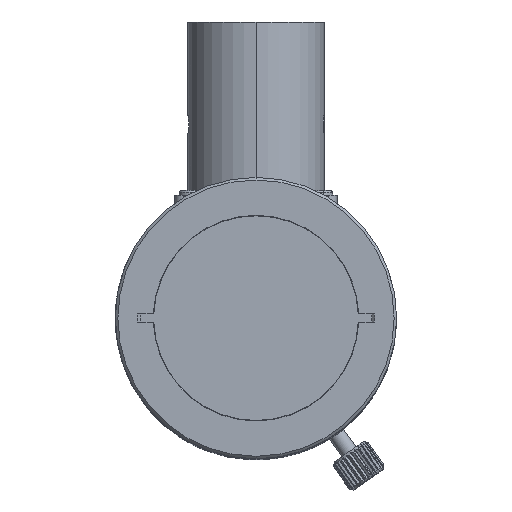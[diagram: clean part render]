
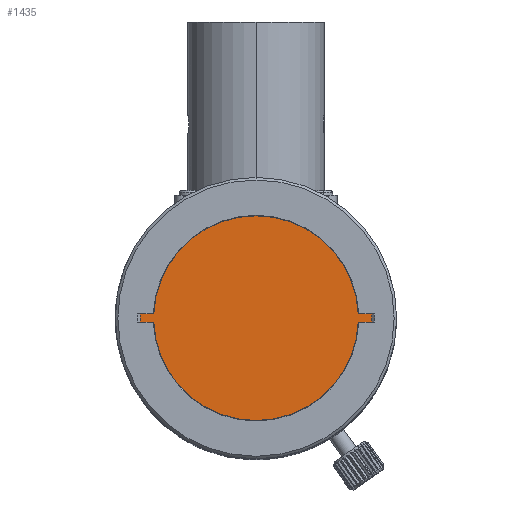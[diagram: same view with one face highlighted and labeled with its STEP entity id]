
A CAD part, top view. The second image highlights one B-rep face of the part: STEP entity #1435.
In plain terms, the highlighted planar face has unit normal (0, 0, 1).
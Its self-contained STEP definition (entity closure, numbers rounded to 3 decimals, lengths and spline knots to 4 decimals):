
#850 = EDGE_LOOP ( 'NONE', ( #2689, #2691, #2693, #2695, #2697, #2699, #2701, #2703 ) ) ;
#1435 = ADVANCED_FACE ( 'NONE', ( #7207 ), #7208, .F. ) ;
#2689 = ORIENTED_EDGE ( 'NONE', *, *, #5704, .F. ) ;
#2691 = ORIENTED_EDGE ( 'NONE', *, *, #5705, .F. ) ;
#2693 = ORIENTED_EDGE ( 'NONE', *, *, #5354, .T. ) ;
#2695 = ORIENTED_EDGE ( 'NONE', *, *, #5706, .F. ) ;
#2697 = ORIENTED_EDGE ( 'NONE', *, *, #5707, .F. ) ;
#2699 = ORIENTED_EDGE ( 'NONE', *, *, #5708, .T. ) ;
#2701 = ORIENTED_EDGE ( 'NONE', *, *, #5358, .T. ) ;
#2703 = ORIENTED_EDGE ( 'NONE', *, *, #5700, .T. ) ;
#5354 = EDGE_CURVE ( 'NONE', #6748, #6732, #13665, .T. ) ;
#5358 = EDGE_CURVE ( 'NONE', #6747, #6739, #13672, .T. ) ;
#5700 = EDGE_CURVE ( 'NONE', #6739, #6681, #22858, .T. ) ;
#5704 = EDGE_CURVE ( 'NONE', #6830, #6681, #19980, .T. ) ;
#5705 = EDGE_CURVE ( 'NONE', #6748, #6830, #22868, .T. ) ;
#5706 = EDGE_CURVE ( 'NONE', #6636, #6732, #22880, .T. ) ;
#5707 = EDGE_CURVE ( 'NONE', #6635, #6636, #19982, .T. ) ;
#5708 = EDGE_CURVE ( 'NONE', #6635, #6747, #22890, .T. ) ;
#6635 = VERTEX_POINT ( 'NONE', #28347 ) ;
#6636 = VERTEX_POINT ( 'NONE', #28348 ) ;
#6681 = VERTEX_POINT ( 'NONE', #28393 ) ;
#6732 = VERTEX_POINT ( 'NONE', #28444 ) ;
#6739 = VERTEX_POINT ( 'NONE', #28451 ) ;
#6747 = VERTEX_POINT ( 'NONE', #28459 ) ;
#6748 = VERTEX_POINT ( 'NONE', #28460 ) ;
#6830 = VERTEX_POINT ( 'NONE', #28542 ) ;
#7204 = CARTESIAN_POINT ( 'NONE',  ( 0.5512, 0.0197, 2.2638 ) ) ;
#7207 = FACE_OUTER_BOUND ( 'NONE', #850, .T. ) ;
#7208 = PLANE ( 'NONE',  #27306 ) ;
#7210 = DIRECTION ( 'NONE',  ( 0., 0., -1. ) ) ;
#7211 = DIRECTION ( 'NONE',  ( -1., 0., 0. ) ) ;
#13665 = CIRCLE ( 'NONE', #13668, 0.4724 ) ;
#13668 = AXIS2_PLACEMENT_3D ( 'NONE', #18805, #18806, #18807 ) ;
#13672 = CIRCLE ( 'NONE', #13674, 0.4724 ) ;
#13674 = AXIS2_PLACEMENT_3D ( 'NONE', #18817, #18818, #18819 ) ;
#18805 = CARTESIAN_POINT ( 'NONE',  ( 0., 0., 2.2638 ) ) ;
#18806 = DIRECTION ( 'NONE',  ( 0., 0., 1. ) ) ;
#18807 = DIRECTION ( 'NONE',  ( 0., 1., 0. ) ) ;
#18817 = CARTESIAN_POINT ( 'NONE',  ( 0., 0., 2.2638 ) ) ;
#18818 = DIRECTION ( 'NONE',  ( 0., 0., 1. ) ) ;
#18819 = DIRECTION ( 'NONE',  ( 0., 1., 0. ) ) ;
#19973 = VECTOR ( 'NONE', #22865, 39.3701 ) ;
#19978 = VECTOR ( 'NONE', #22887, 39.3701 ) ;
#19979 = AXIS2_PLACEMENT_3D ( 'NONE', #22881, #22882, #22883 ) ;
#19980 = CIRCLE ( 'NONE', #19979, 0.5354 ) ;
#19981 = VECTOR ( 'NONE', #22884, 39.3701 ) ;
#19982 = CIRCLE ( 'NONE', #19985, 0.5354 ) ;
#19983 = VECTOR ( 'NONE', #22894, 39.3701 ) ;
#19985 = AXIS2_PLACEMENT_3D ( 'NONE', #22891, #22892, #22893 ) ;
#22858 = LINE ( 'NONE', #22864, #19973 ) ;
#22864 = CARTESIAN_POINT ( 'NONE',  ( 0.5512, 0.0197, 2.2638 ) ) ;
#22865 = DIRECTION ( 'NONE',  ( -1., 0., 0. ) ) ;
#22868 = LINE ( 'NONE', #22874, #19981 ) ;
#22874 = CARTESIAN_POINT ( 'NONE',  ( 0.5512, -0.0197, 2.2638 ) ) ;
#22880 = LINE ( 'NONE', #22885, #19978 ) ;
#22881 = CARTESIAN_POINT ( 'NONE',  ( 0., 0., 2.2638 ) ) ;
#22882 = DIRECTION ( 'NONE',  ( 0., 0., -1. ) ) ;
#22883 = DIRECTION ( 'NONE',  ( 0., 1., 0. ) ) ;
#22884 = DIRECTION ( 'NONE',  ( -1., 0., 0. ) ) ;
#22885 = CARTESIAN_POINT ( 'NONE',  ( 0.5512, -0.0197, 2.2638 ) ) ;
#22886 = CARTESIAN_POINT ( 'NONE',  ( 0.5512, 0.0197, 2.2638 ) ) ;
#22887 = DIRECTION ( 'NONE',  ( -1., 0., 0. ) ) ;
#22890 = LINE ( 'NONE', #22886, #19983 ) ;
#22891 = CARTESIAN_POINT ( 'NONE',  ( 0., 0., 2.2638 ) ) ;
#22892 = DIRECTION ( 'NONE',  ( 0., 0., -1. ) ) ;
#22893 = DIRECTION ( 'NONE',  ( 0., 1., 0. ) ) ;
#22894 = DIRECTION ( 'NONE',  ( -1., 0., 0. ) ) ;
#27306 = AXIS2_PLACEMENT_3D ( 'NONE', #7204, #7210, #7211 ) ;
#28347 = CARTESIAN_POINT ( 'NONE',  ( 0.5351, 0.0197, 2.2638 ) ) ;
#28348 = CARTESIAN_POINT ( 'NONE',  ( 0.5351, -0.0197, 2.2638 ) ) ;
#28393 = CARTESIAN_POINT ( 'NONE',  ( -0.5351, 0.0197, 2.2638 ) ) ;
#28444 = CARTESIAN_POINT ( 'NONE',  ( 0.472, -0.0197, 2.2638 ) ) ;
#28451 = CARTESIAN_POINT ( 'NONE',  ( -0.472, 0.0197, 2.2638 ) ) ;
#28459 = CARTESIAN_POINT ( 'NONE',  ( 0.472, 0.0197, 2.2638 ) ) ;
#28460 = CARTESIAN_POINT ( 'NONE',  ( -0.472, -0.0197, 2.2638 ) ) ;
#28542 = CARTESIAN_POINT ( 'NONE',  ( -0.5351, -0.0197, 2.2638 ) ) ;
